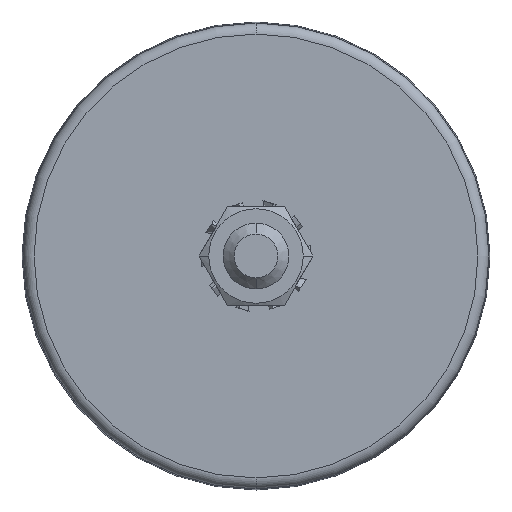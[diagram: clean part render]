
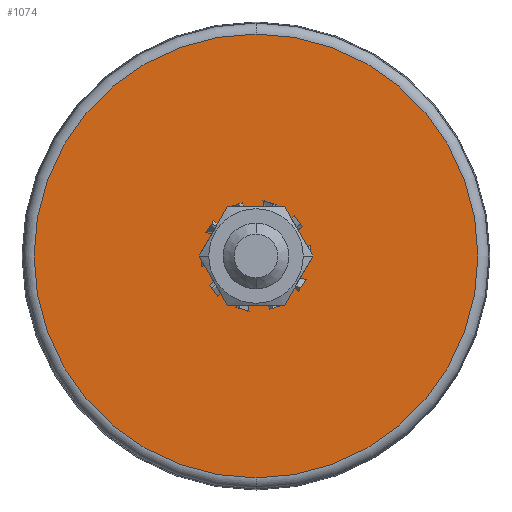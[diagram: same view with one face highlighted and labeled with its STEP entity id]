
A CAD part, front view. The second image highlights one B-rep face of the part: STEP entity #1074.
In plain terms, the highlighted planar face has unit normal (0, -1, 0).
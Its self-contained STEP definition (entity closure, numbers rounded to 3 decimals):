
#129 = CARTESIAN_POINT ( 'NONE',  ( 6., 0., 0. ) ) ;
#435 = CARTESIAN_POINT ( 'NONE',  ( 0., 0., -40.5 ) ) ;
#487 = DIRECTION ( 'NONE',  ( 0., 1., 0. ) ) ;
#1074 = ADVANCED_FACE ( 'NONE', ( #1814, #1994 ), #1818, .T. ) ;
#1080 = ORIENTED_EDGE ( 'NONE', *, *, #7020, .T. ) ;
#1141 = DIRECTION ( 'NONE',  ( 0., 0., -1. ) ) ;
#1303 = VERTEX_POINT ( 'NONE', #5503 ) ;
#1329 = AXIS2_PLACEMENT_3D ( 'NONE', #4581, #487, #1141 ) ;
#1346 = EDGE_CURVE ( 'NONE', #1303, #2421, #3973, .T. ) ;
#1465 = CARTESIAN_POINT ( 'NONE',  ( 0., 0., 0. ) ) ;
#1565 = DIRECTION ( 'NONE',  ( 0., -1., 0. ) ) ;
#1814 = FACE_BOUND ( 'NONE', #4456, .T. ) ;
#1818 = PLANE ( 'NONE',  #4453 ) ;
#1832 = CARTESIAN_POINT ( 'NONE',  ( 0., 0., 0. ) ) ;
#1990 = ORIENTED_EDGE ( 'NONE', *, *, #1346, .T. ) ;
#1994 = FACE_OUTER_BOUND ( 'NONE', #2657, .T. ) ;
#2365 = CARTESIAN_POINT ( 'NONE',  ( 0., 0., 8. ) ) ;
#2394 = DIRECTION ( 'NONE',  ( 0., 0., -1. ) ) ;
#2421 = VERTEX_POINT ( 'NONE', #435 ) ;
#2423 = CARTESIAN_POINT ( 'NONE',  ( 0., 0., -8. ) ) ;
#2456 = CIRCLE ( 'NONE', #5839, 40.5 ) ;
#2642 = CIRCLE ( 'NONE', #1329, 8. ) ;
#2657 = EDGE_LOOP ( 'NONE', ( #1080, #1990 ) ) ;
#3119 = CIRCLE ( 'NONE', #5875, 8. ) ;
#3973 = CIRCLE ( 'NONE', #4962, 40.5 ) ;
#4132 = DIRECTION ( 'NONE',  ( 0., -1., 0. ) ) ;
#4146 = DIRECTION ( 'NONE',  ( 0., 1., 0. ) ) ;
#4189 = EDGE_CURVE ( 'NONE', #7190, #6562, #3119, .T. ) ;
#4453 = AXIS2_PLACEMENT_3D ( 'NONE', #129, #5838, #2394 ) ;
#4456 = EDGE_LOOP ( 'NONE', ( #5383, #5688 ) ) ;
#4581 = CARTESIAN_POINT ( 'NONE',  ( 0., 0., 0. ) ) ;
#4738 = DIRECTION ( 'NONE',  ( 0., 0., -1. ) ) ;
#4962 = AXIS2_PLACEMENT_3D ( 'NONE', #1465, #1565, #5477 ) ;
#5296 = DIRECTION ( 'NONE',  ( 0., 0., -1. ) ) ;
#5383 = ORIENTED_EDGE ( 'NONE', *, *, #4189, .T. ) ;
#5477 = DIRECTION ( 'NONE',  ( 0., 0., -1. ) ) ;
#5503 = CARTESIAN_POINT ( 'NONE',  ( 0., 0., 40.5 ) ) ;
#5688 = ORIENTED_EDGE ( 'NONE', *, *, #6385, .T. ) ;
#5838 = DIRECTION ( 'NONE',  ( 0., -1., 0. ) ) ;
#5839 = AXIS2_PLACEMENT_3D ( 'NONE', #1832, #4132, #5296 ) ;
#5875 = AXIS2_PLACEMENT_3D ( 'NONE', #6490, #4146, #4738 ) ;
#6385 = EDGE_CURVE ( 'NONE', #6562, #7190, #2642, .T. ) ;
#6490 = CARTESIAN_POINT ( 'NONE',  ( 0., 0., 0. ) ) ;
#6562 = VERTEX_POINT ( 'NONE', #2365 ) ;
#7020 = EDGE_CURVE ( 'NONE', #2421, #1303, #2456, .T. ) ;
#7190 = VERTEX_POINT ( 'NONE', #2423 ) ;
